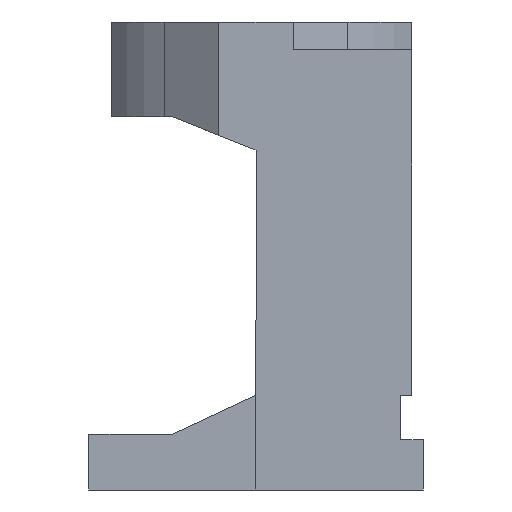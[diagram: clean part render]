
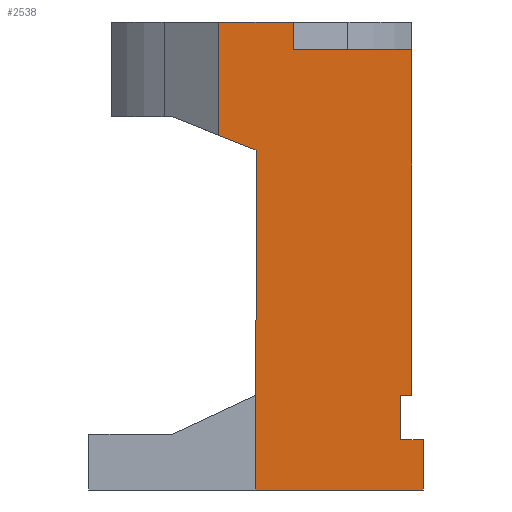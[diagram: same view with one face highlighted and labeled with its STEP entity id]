
A CAD part, left-side view. The second image highlights one B-rep face of the part: STEP entity #2538.
In plain terms, the highlighted planar face has unit normal (-1, 0, 0).
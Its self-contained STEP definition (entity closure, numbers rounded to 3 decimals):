
#75 = EDGE_CURVE ( 'NONE', #2258, #1026, #1549, .T. ) ;
#82 = DIRECTION ( 'NONE',  ( 0., 0., -1. ) ) ;
#132 = VECTOR ( 'NONE', #3159, 1000. ) ;
#144 = CARTESIAN_POINT ( 'NONE',  ( -35., 0., 55.5 ) ) ;
#182 = DIRECTION ( 'NONE',  ( 0., 0., 1. ) ) ;
#195 = CARTESIAN_POINT ( 'NONE',  ( -35., -6.694, 90.58 ) ) ;
#202 = ORIENTED_EDGE ( 'NONE', *, *, #3144, .F. ) ;
#256 = DIRECTION ( 'NONE',  ( 0., 1., 0. ) ) ;
#260 = DIRECTION ( 'NONE',  ( 0., -1., 0. ) ) ;
#281 = ORIENTED_EDGE ( 'NONE', *, *, #506, .T. ) ;
#380 = CARTESIAN_POINT ( 'NONE',  ( -35., 9.496, 59.298 ) ) ;
#411 = VECTOR ( 'NONE', #2050, 1000. ) ;
#490 = CARTESIAN_POINT ( 'NONE',  ( -35., 6.694, 58.178 ) ) ;
#501 = ORIENTED_EDGE ( 'NONE', *, *, #652, .F. ) ;
#506 = EDGE_CURVE ( 'NONE', #3318, #1073, #1075, .T. ) ;
#526 = EDGE_CURVE ( 'NONE', #1026, #882, #984, .T. ) ;
#619 = LINE ( 'NONE', #195, #2679 ) ;
#622 = EDGE_CURVE ( 'NONE', #2021, #2258, #619, .T. ) ;
#646 = CARTESIAN_POINT ( 'NONE',  ( -35., 0., -5.5 ) ) ;
#652 = EDGE_CURVE ( 'NONE', #882, #944, #1112, .T. ) ;
#691 = DIRECTION ( 'NONE',  ( 0., -1., 0. ) ) ;
#814 = ORIENTED_EDGE ( 'NONE', *, *, #3120, .F. ) ;
#820 = LINE ( 'NONE', #1959, #1563 ) ;
#830 = LINE ( 'NONE', #2623, #2971 ) ;
#882 = VERTEX_POINT ( 'NONE', #2159 ) ;
#944 = VERTEX_POINT ( 'NONE', #2418 ) ;
#971 = DIRECTION ( 'NONE',  ( 0., 0., 1. ) ) ;
#978 = DIRECTION ( 'NONE',  ( 0., 1., 0. ) ) ;
#984 = LINE ( 'NONE', #1518, #2474 ) ;
#1026 = VERTEX_POINT ( 'NONE', #2371 ) ;
#1041 = DIRECTION ( 'NONE',  ( 0., 1., 0. ) ) ;
#1073 = VERTEX_POINT ( 'NONE', #144 ) ;
#1075 = LINE ( 'NONE', #380, #3208 ) ;
#1107 = CARTESIAN_POINT ( 'NONE',  ( -35., -30., -5.5 ) ) ;
#1112 = LINE ( 'NONE', #1302, #2513 ) ;
#1142 = EDGE_CURVE ( 'NONE', #3318, #2943, #3392, .T. ) ;
#1165 = CARTESIAN_POINT ( 'NONE',  ( -35., -6.694, 73.5 ) ) ;
#1174 = LINE ( 'NONE', #646, #411 ) ;
#1241 = VECTOR ( 'NONE', #256, 1000. ) ;
#1244 = EDGE_LOOP ( 'NONE', ( #2647, #281, #202, #3493, #814, #2213, #1264, #501, #2984, #2435, #2674, #3192 ) ) ;
#1264 = ORIENTED_EDGE ( 'NONE', *, *, #1850, .F. ) ;
#1302 = CARTESIAN_POINT ( 'NONE',  ( -35., -30., 11.5 ) ) ;
#1518 = CARTESIAN_POINT ( 'NONE',  ( -35., -28., 73.5 ) ) ;
#1549 = LINE ( 'NONE', #2381, #3038 ) ;
#1563 = VECTOR ( 'NONE', #260, 1000. ) ;
#1582 = PLANE ( 'NONE',  #2327 ) ;
#1630 = VERTEX_POINT ( 'NONE', #3312 ) ;
#1736 = DIRECTION ( 'NONE',  ( 0., -0.928, -0.371 ) ) ;
#1850 = EDGE_CURVE ( 'NONE', #944, #1630, #2383, .T. ) ;
#1891 = DIRECTION ( 'NONE',  ( 0., 0., -1. ) ) ;
#1914 = VECTOR ( 'NONE', #182, 1000. ) ;
#1959 = CARTESIAN_POINT ( 'NONE',  ( -35., -30., 3.5 ) ) ;
#2021 = VERTEX_POINT ( 'NONE', #2155 ) ;
#2050 = DIRECTION ( 'NONE',  ( 0., 1., 0. ) ) ;
#2051 = FACE_OUTER_BOUND ( 'NONE', #1244, .T. ) ;
#2063 = CARTESIAN_POINT ( 'NONE',  ( -35., -30., 3.5 ) ) ;
#2146 = LINE ( 'NONE', #2915, #3619 ) ;
#2155 = CARTESIAN_POINT ( 'NONE',  ( -35., -6.694, 78.5 ) ) ;
#2159 = CARTESIAN_POINT ( 'NONE',  ( -35., -28., 11.5 ) ) ;
#2203 = EDGE_CURVE ( 'NONE', #2021, #2943, #3467, .T. ) ;
#2213 = ORIENTED_EDGE ( 'NONE', *, *, #2858, .F. ) ;
#2258 = VERTEX_POINT ( 'NONE', #1165 ) ;
#2321 = EDGE_CURVE ( 'NONE', #3408, #2767, #1174, .T. ) ;
#2327 = AXIS2_PLACEMENT_3D ( 'NONE', #3531, #2642, #978 ) ;
#2371 = CARTESIAN_POINT ( 'NONE',  ( -35., -28., 73.5 ) ) ;
#2381 = CARTESIAN_POINT ( 'NONE',  ( -35., 0., 73.5 ) ) ;
#2383 = LINE ( 'NONE', #2867, #132 ) ;
#2418 = CARTESIAN_POINT ( 'NONE',  ( -35., -26., 11.5 ) ) ;
#2427 = CARTESIAN_POINT ( 'NONE',  ( -35., 6.694, 73.5 ) ) ;
#2435 = ORIENTED_EDGE ( 'NONE', *, *, #75, .F. ) ;
#2474 = VECTOR ( 'NONE', #3167, 1000. ) ;
#2513 = VECTOR ( 'NONE', #1041, 1000. ) ;
#2531 = CARTESIAN_POINT ( 'NONE',  ( -35., 0., -5.5 ) ) ;
#2538 = ADVANCED_FACE ( 'NONE', ( #2051 ), #1582, .T. ) ;
#2623 = CARTESIAN_POINT ( 'NONE',  ( -35., -30., 73.5 ) ) ;
#2642 = DIRECTION ( 'NONE',  ( -1., 0., 0. ) ) ;
#2647 = ORIENTED_EDGE ( 'NONE', *, *, #1142, .F. ) ;
#2674 = ORIENTED_EDGE ( 'NONE', *, *, #622, .F. ) ;
#2679 = VECTOR ( 'NONE', #1891, 1000. ) ;
#2767 = VERTEX_POINT ( 'NONE', #2531 ) ;
#2858 = EDGE_CURVE ( 'NONE', #1630, #3123, #820, .T. ) ;
#2867 = CARTESIAN_POINT ( 'NONE',  ( -35., -26., 73.5 ) ) ;
#2915 = CARTESIAN_POINT ( 'NONE',  ( -35., 0., 73.5 ) ) ;
#2943 = VERTEX_POINT ( 'NONE', #3366 ) ;
#2971 = VECTOR ( 'NONE', #82, 1000. ) ;
#2984 = ORIENTED_EDGE ( 'NONE', *, *, #526, .F. ) ;
#3038 = VECTOR ( 'NONE', #691, 1000. ) ;
#3120 = EDGE_CURVE ( 'NONE', #3123, #3408, #830, .T. ) ;
#3123 = VERTEX_POINT ( 'NONE', #2063 ) ;
#3144 = EDGE_CURVE ( 'NONE', #2767, #1073, #2146, .T. ) ;
#3159 = DIRECTION ( 'NONE',  ( 0., 0., -1. ) ) ;
#3167 = DIRECTION ( 'NONE',  ( 0., 0., -1. ) ) ;
#3192 = ORIENTED_EDGE ( 'NONE', *, *, #2203, .T. ) ;
#3208 = VECTOR ( 'NONE', #1736, 1000. ) ;
#3312 = CARTESIAN_POINT ( 'NONE',  ( -35., -26., 3.5 ) ) ;
#3318 = VERTEX_POINT ( 'NONE', #490 ) ;
#3366 = CARTESIAN_POINT ( 'NONE',  ( -35., 6.694, 78.5 ) ) ;
#3392 = LINE ( 'NONE', #2427, #1914 ) ;
#3408 = VERTEX_POINT ( 'NONE', #1107 ) ;
#3467 = LINE ( 'NONE', #3615, #1241 ) ;
#3493 = ORIENTED_EDGE ( 'NONE', *, *, #2321, .F. ) ;
#3531 = CARTESIAN_POINT ( 'NONE',  ( -35., -30., 73.5 ) ) ;
#3615 = CARTESIAN_POINT ( 'NONE',  ( -35., -12.471, 78.5 ) ) ;
#3619 = VECTOR ( 'NONE', #971, 1000. ) ;
